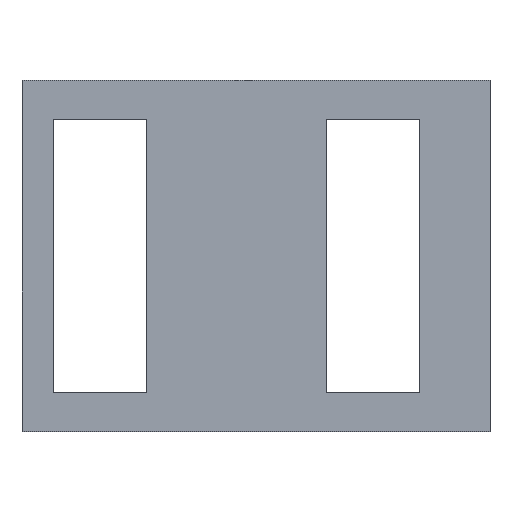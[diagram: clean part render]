
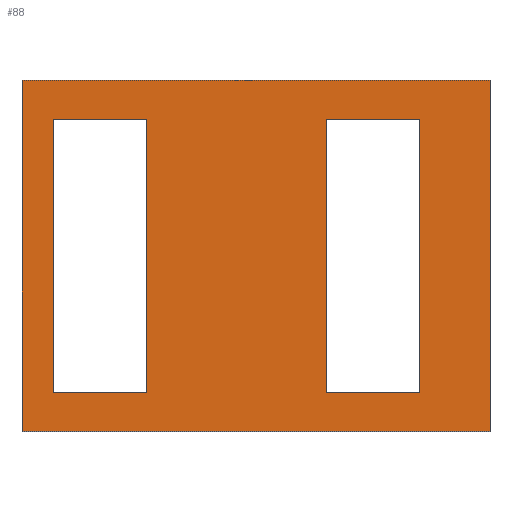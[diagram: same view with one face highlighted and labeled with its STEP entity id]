
A CAD part, top view. The second image highlights one B-rep face of the part: STEP entity #88.
In plain terms, the highlighted planar face has unit normal (0, 0, 1).
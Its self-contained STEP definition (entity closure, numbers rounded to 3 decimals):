
#24 = VERTEX_POINT('',#25);
#25 = CARTESIAN_POINT('',(27.,104.,19.88));
#40 = VERTEX_POINT('',#41);
#41 = CARTESIAN_POINT('',(27.,113.,19.88));
#47 = EDGE_CURVE('',#24,#40,#48,.T.);
#48 = LINE('',#49,#50);
#49 = CARTESIAN_POINT('',(27.,104.,19.88));
#50 = VECTOR('',#51,1.);
#51 = DIRECTION('',(-0.,1.,0.));
#70 = EDGE_CURVE('',#24,#71,#73,.T.);
#71 = VERTEX_POINT('',#72);
#72 = CARTESIAN_POINT('',(39.,104.,19.88));
#73 = LINE('',#74,#75);
#74 = CARTESIAN_POINT('',(27.,104.,19.88));
#75 = VECTOR('',#76,1.);
#76 = DIRECTION('',(1.,0.,-0.));
#88 = ADVANCED_FACE('',(#89,#107,#141),#175,.T.);
#89 = FACE_BOUND('',#90,.T.);
#90 = EDGE_LOOP('',(#91,#92,#93,#101));
#91 = ORIENTED_EDGE('',*,*,#47,.F.);
#92 = ORIENTED_EDGE('',*,*,#70,.T.);
#93 = ORIENTED_EDGE('',*,*,#94,.T.);
#94 = EDGE_CURVE('',#71,#95,#97,.T.);
#95 = VERTEX_POINT('',#96);
#96 = CARTESIAN_POINT('',(39.,113.,19.88));
#97 = LINE('',#98,#99);
#98 = CARTESIAN_POINT('',(39.,104.,19.88));
#99 = VECTOR('',#100,1.);
#100 = DIRECTION('',(-0.,1.,0.));
#101 = ORIENTED_EDGE('',*,*,#102,.F.);
#102 = EDGE_CURVE('',#40,#95,#103,.T.);
#103 = LINE('',#104,#105);
#104 = CARTESIAN_POINT('',(27.,113.,19.88));
#105 = VECTOR('',#106,1.);
#106 = DIRECTION('',(1.,0.,-0.));
#107 = FACE_BOUND('',#108,.T.);
#108 = EDGE_LOOP('',(#109,#119,#127,#135));
#109 = ORIENTED_EDGE('',*,*,#110,.T.);
#110 = EDGE_CURVE('',#111,#113,#115,.T.);
#111 = VERTEX_POINT('',#112);
#112 = CARTESIAN_POINT('',(30.2,105.,19.88));
#113 = VERTEX_POINT('',#114);
#114 = CARTESIAN_POINT('',(27.8,105.,19.88));
#115 = LINE('',#116,#117);
#116 = CARTESIAN_POINT('',(27.4,105.,19.88));
#117 = VECTOR('',#118,1.);
#118 = DIRECTION('',(-1.,-0.,0.));
#119 = ORIENTED_EDGE('',*,*,#120,.T.);
#120 = EDGE_CURVE('',#113,#121,#123,.T.);
#121 = VERTEX_POINT('',#122);
#122 = CARTESIAN_POINT('',(27.8,112.,19.88));
#123 = LINE('',#124,#125);
#124 = CARTESIAN_POINT('',(27.8,104.5,19.88));
#125 = VECTOR('',#126,1.);
#126 = DIRECTION('',(-0.,1.,0.));
#127 = ORIENTED_EDGE('',*,*,#128,.F.);
#128 = EDGE_CURVE('',#129,#121,#131,.T.);
#129 = VERTEX_POINT('',#130);
#130 = CARTESIAN_POINT('',(30.2,112.,19.88));
#131 = LINE('',#132,#133);
#132 = CARTESIAN_POINT('',(27.4,112.,19.88));
#133 = VECTOR('',#134,1.);
#134 = DIRECTION('',(-1.,-0.,0.));
#135 = ORIENTED_EDGE('',*,*,#136,.F.);
#136 = EDGE_CURVE('',#111,#129,#137,.T.);
#137 = LINE('',#138,#139);
#138 = CARTESIAN_POINT('',(30.2,104.5,19.88));
#139 = VECTOR('',#140,1.);
#140 = DIRECTION('',(-0.,1.,0.));
#141 = FACE_BOUND('',#142,.T.);
#142 = EDGE_LOOP('',(#143,#153,#161,#169));
#143 = ORIENTED_EDGE('',*,*,#144,.T.);
#144 = EDGE_CURVE('',#145,#147,#149,.T.);
#145 = VERTEX_POINT('',#146);
#146 = CARTESIAN_POINT('',(37.2,105.,19.88));
#147 = VERTEX_POINT('',#148);
#148 = CARTESIAN_POINT('',(34.8,105.,19.88));
#149 = LINE('',#150,#151);
#150 = CARTESIAN_POINT('',(30.9,105.,19.88));
#151 = VECTOR('',#152,1.);
#152 = DIRECTION('',(-1.,-0.,0.));
#153 = ORIENTED_EDGE('',*,*,#154,.T.);
#154 = EDGE_CURVE('',#147,#155,#157,.T.);
#155 = VERTEX_POINT('',#156);
#156 = CARTESIAN_POINT('',(34.8,112.,19.88));
#157 = LINE('',#158,#159);
#158 = CARTESIAN_POINT('',(34.8,104.5,19.88));
#159 = VECTOR('',#160,1.);
#160 = DIRECTION('',(-0.,1.,0.));
#161 = ORIENTED_EDGE('',*,*,#162,.F.);
#162 = EDGE_CURVE('',#163,#155,#165,.T.);
#163 = VERTEX_POINT('',#164);
#164 = CARTESIAN_POINT('',(37.2,112.,19.88));
#165 = LINE('',#166,#167);
#166 = CARTESIAN_POINT('',(30.9,112.,19.88));
#167 = VECTOR('',#168,1.);
#168 = DIRECTION('',(-1.,-0.,0.));
#169 = ORIENTED_EDGE('',*,*,#170,.F.);
#170 = EDGE_CURVE('',#145,#163,#171,.T.);
#171 = LINE('',#172,#173);
#172 = CARTESIAN_POINT('',(37.2,104.5,19.88));
#173 = VECTOR('',#174,1.);
#174 = DIRECTION('',(-0.,1.,0.));
#175 = PLANE('',#176);
#176 = AXIS2_PLACEMENT_3D('',#177,#178,#179);
#177 = CARTESIAN_POINT('',(27.,104.,19.88));
#178 = DIRECTION('',(0.,0.,1.));
#179 = DIRECTION('',(1.,0.,-0.));
